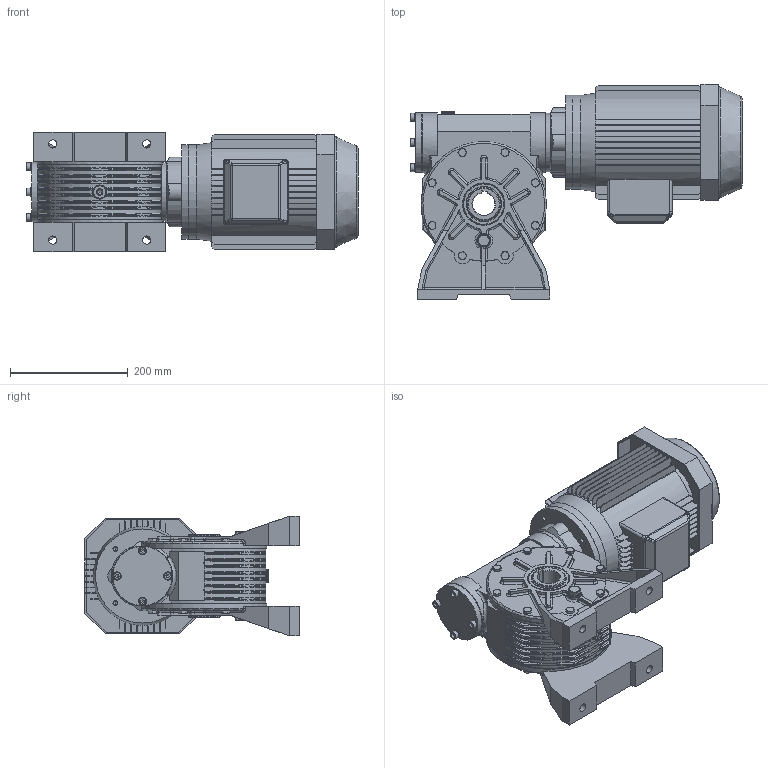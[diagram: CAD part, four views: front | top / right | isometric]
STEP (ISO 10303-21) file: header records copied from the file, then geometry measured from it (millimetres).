
FILE_DESCRIPTION((''),'2;1');
FILE_NAME('Y:\Archivi Inventor\Prog_01\GRAND_50\complessivi\Figurini\MRV50 sito\100l\mrv50_P2_100L_B14.stp','2013-02-08T10:39:14',('tech3'),(''),'Autodesk Inventor 2013','Autodesk Inventor 2013','');
FILE_SCHEMA(('AUTOMOTIVE_DESIGN { 1 0 10303 214 1 1 1 1 }'));
Length unit declared in the file: millimetre
Products named in the file (18): mrv50_100_112_b14; mrv50_fig; Figurino_carcassa_MRV50; 0105028; 0105029; figurino_corona_MRV50; figurino_0105010; Guarnizione 3_8 GAS; Tappo 3_8 GAS_esagn_incsst; Tappo3_8 GAS; figurino_0105009; ISO 4017 M8 x 20; 55_70_8; UNI 6592 8.4 x 14; UNI 5931  M 8 x  25; 0105006; DIN EN ISO 4762 M8 x 20; motori B14 100
Assembly tree (50 placements, depth 3):
  mrv50_100_112_b14
    mrv50_fig
      Figurino_carcassa_MRV50
      0105028  x2
      0105029  x2
      figurino_corona_MRV50
      figurino_0105010  x2
      Guarnizione 3_8 GAS  x4
      Tappo 3_8 GAS_esagn_incsst  x2
      Tappo3_8 GAS  x2
      figurino_0105009
      ISO 4017 M8 x 20  x16
      55_70_8  x2
      UNI 6592 8.4 x 14  x4
      UNI 5931  M 8 x  25  x4
    0105006
    DIN EN ISO 4762 M8 x 20  x4
    motori B14 100
Bounding box: 564.8 x 365.55 x 203.7 mm (x, y, z)
Volume: 13165233.2 mm3; surface area: 1308077.1 mm2
Topology: 61 solids, 63 shells, 2189 faces, 5239 edges, 3096 vertices
Faces by surface type: plane 887, cylinder 671, cone 220, torus 179, bspline 162, sphere 70
Full cylindrical faces by diameter (mm): 2 x2, 6.647 x28, 8 x26, 8.4 x4, 8.5 x52, 11.63 x16, 13 x12, 13.046 x2, 14 x8, 14.95 x4, 16.3 x4, 16.5 x2, 22 x8, 24 x2, 28 x1, 55 x1, 60 x1, 66.4 x2, 69 x2, 70 x5, 72 x4, 73 x2, 75 x1, 99.5 x2, 100 x1, 101 x1, 102 x2, 110 x2, 114.4 x1, 120 x1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
Entity records: 52372 total; most frequent: CARTESIAN_POINT 17521, DIRECTION 7232, ORIENTED_EDGE 6686, EDGE_CURVE 3343, AXIS2_PLACEMENT_3D 2830, VERTEX_POINT 2145, EDGE_LOOP 1858, VECTOR 1572
